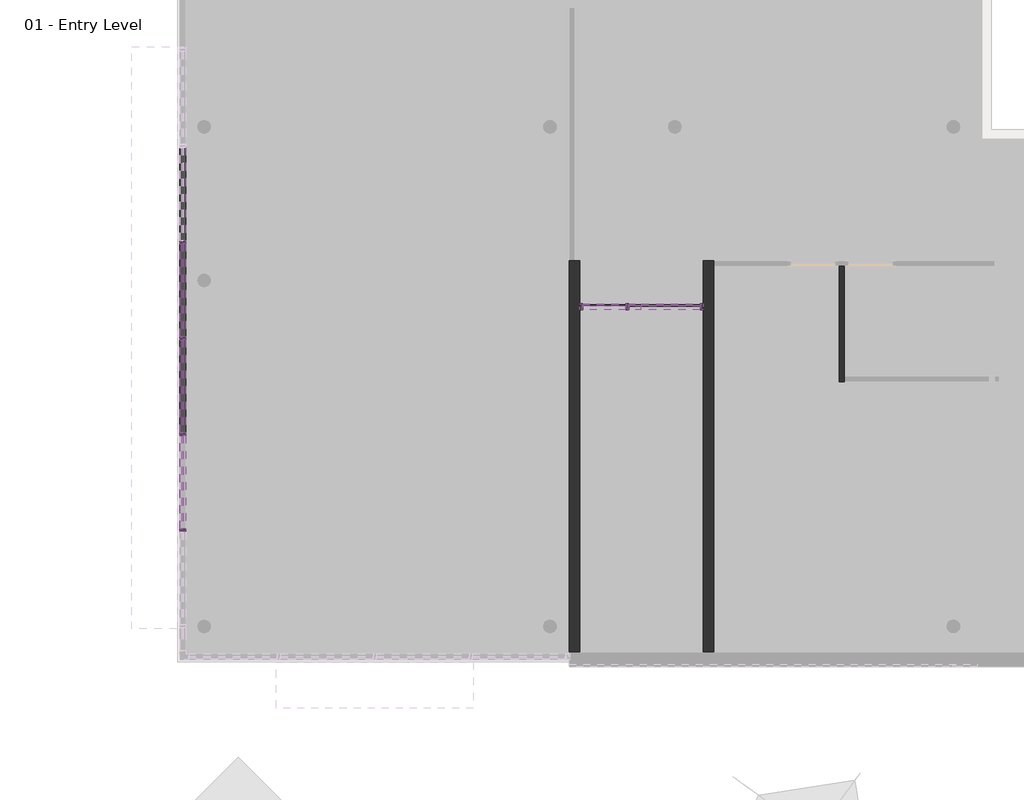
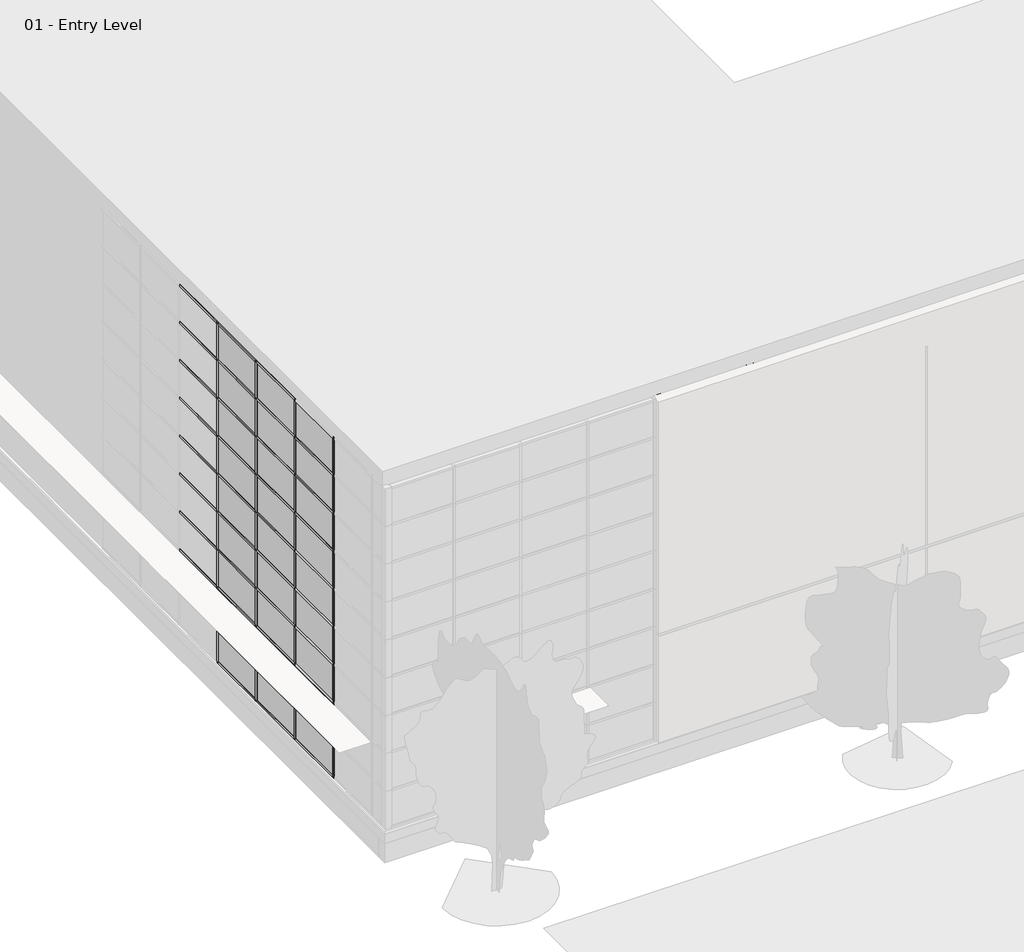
# One storey, part 7 of 35: 87 members, 31 plates, 3 walls, 1 door.
"""IFC4 building model written with IfcOpenShell, lengths in millimetres."""

from ifc_helpers import new_model, si_unit, origin, place, context, project, spatial, faceted_brep, transform, mapped, element, save
from components import curtain_wall_sgl_glass_curtain_wall_sgl_glass_c2d4b377, member_2b49869a, member_18e22e2d, member_9193c932, member_391b434c, member_9e90ae50, member_6186cc23, member_5d67b9fc, member_c327c56d, member_a50b3cda, member_410c6227, member_73c23c35, member_59c53a79, member_c46932f7, member_40e8ea34, member_f5b3432e, system_panel_glazed_1b9d6098, system_panel_glazed_70da479d, system_panel_glazed_652e8fc4, system_panel_glazed_8dc8626f, system_panel_glazed_8d3e4aee, system_panel_glazed_f4fcbcda, system_panel_solid_b376696c, system_panel_solid_77e8b053

model = new_model("IFC4")

# Units and contexts
model_context = context("Model", 3, world=origin())
ifc_project = project(units=[si_unit("LENGTHUNIT", "METRE", prefix="MILLI")], contexts=[model_context])

# Site, building, storey
site = spatial("IfcSite", under=ifc_project)
building = spatial("IfcBuilding", under=site)
storey = spatial("IfcBuildingStorey", under=building, Name="01 - Entry Level", Elevation=0.0)

# Door
placement = place(None, origin())
curtain_wall_sgl_glass_curtain_wall_sgl_glass_shape = curtain_wall_sgl_glass_curtain_wall_sgl_glass_c2d4b377(model_context)
element("IfcDoor", 1, ObjectType="Curtain Wall Sgl Glass : Curtain Wall Sgl Glass", at=placement, inside=storey, context=model_context, shape_type="MappedRepresentation", body=[
    mapped(curtain_wall_sgl_glass_curtain_wall_sgl_glass_shape, transform((9097.2957476, 7356.4, 0.0), x_axis=(-1.0, 0.0, 0.0), y_axis=(0.0, -1.0, 0.0), z_axis=(0.0, 0.0, 1.0))),
])

# Members
member_shape = member_2b49869a(model_context)
element("IfcMember", 2, ObjectType="Rectangular Mullion : 2.5\" x 5\" rectangular", at=placement, inside=storey, context=model_context, shape_type="MappedRepresentation", body=[
    mapped(member_shape, transform((178.7207476, 8728.0, 9753.6), x_axis=(0.0, -1.0, 0.0), y_axis=(-1.0, 0.0, 0.0), z_axis=(0.0, 0.0, -1.0))),
])
element("IfcMember", 3, ObjectType="Rectangular Mullion : 2.5\" x 5\" rectangular", at=placement, inside=storey, context=model_context, shape_type="MappedRepresentation", body=[
    mapped(member_shape, transform((178.7207476, 6696.0, 9753.6), x_axis=(0.0, -1.0, 0.0), y_axis=(-1.0, 0.0, 0.0), z_axis=(0.0, 0.0, -1.0))),
])
element("IfcMember", 4, ObjectType="Rectangular Mullion : 2.5\" x 5\" rectangular", at=placement, inside=storey, context=model_context, shape_type="MappedRepresentation", body=[
    mapped(member_shape, transform((178.7207476, 4664.0, 9753.6), x_axis=(0.0, -1.0, 0.0), y_axis=(-1.0, 0.0, 0.0), z_axis=(0.0, 0.0, -1.0))),
])
element("IfcMember", 5, ObjectType="Rectangular Mullion : 2.5\" x 5\" rectangular", at=placement, inside=storey, context=model_context, shape_type="MappedRepresentation", body=[
    mapped(member_shape, transform((178.7207476, 2632.0, 9753.6), x_axis=(0.0, -1.0, 0.0), y_axis=(-1.0, 0.0, 0.0), z_axis=(0.0, 0.0, -1.0))),
])
member_2_shape = member_18e22e2d(model_context)
element("IfcMember", 6, ObjectType="Rectangular Mullion : 2.5\" x 5\" rectangular", at=placement, inside=storey, context=model_context, shape_type="MappedRepresentation", body=[
    mapped(member_2_shape, transform((9586.2457476, 7356.4, 2438.4), x_axis=(-1.0, 0.0, 0.0), y_axis=(0.0, 1.0, 0.0), z_axis=(0.0, 0.0, -1.0))),
])
member_3_shape = member_9193c932(model_context)
element("IfcMember", 7, ObjectType="Rectangular Mullion : 2.5\" x 5\" rectangular", at=placement, inside=storey, context=model_context, shape_type="MappedRepresentation", body=[
    mapped(member_3_shape, transform((11194.3832476, 7356.4, 3403.6), x_axis=(1.0, 0.0, 0.0), y_axis=(0.0, 1.0, 0.0), z_axis=(0.0, 0.0, 1.0))),
])
element("IfcMember", 8, ObjectType="Rectangular Mullion : 2.5\" x 5\" rectangular", at=placement, inside=storey, context=model_context, shape_type="MappedRepresentation", body=[
    mapped(member_3_shape, transform((8576.5957476, 7356.4, 2438.4), x_axis=(-1.0, 0.0, 0.0), y_axis=(0.0, 1.0, 0.0), z_axis=(0.0, 0.0, -1.0))),
])
member_4_shape = member_391b434c(model_context)
element("IfcMember", 9, ObjectType="Rectangular Mullion : 2.5\" x 5\" rectangular", at=placement, inside=storey, context=model_context, shape_type="MappedRepresentation", body=[
    mapped(member_4_shape, transform((178.7207476, 8759.75, 10972.8), x_axis=(0.0, 0.0, 1.0), y_axis=(-1.0, 0.0, 0.0), z_axis=(0.0, -1.0, 0.0))),
])
element("IfcMember", 10, ObjectType="Rectangular Mullion : 2.5\" x 5\" rectangular", at=placement, inside=storey, context=model_context, shape_type="MappedRepresentation", body=[
    mapped(member_4_shape, transform((178.7207476, 6727.75, 10972.8), x_axis=(0.0, 0.0, 1.0), y_axis=(-1.0, 0.0, 0.0), z_axis=(0.0, -1.0, 0.0))),
])
element("IfcMember", 11, ObjectType="Rectangular Mullion : 2.5\" x 5\" rectangular", at=placement, inside=storey, context=model_context, shape_type="MappedRepresentation", body=[
    mapped(member_4_shape, transform((178.7207476, 4695.75, 10972.8), x_axis=(0.0, 0.0, 1.0), y_axis=(-1.0, 0.0, 0.0), z_axis=(0.0, -1.0, 0.0))),
])
element("IfcMember", 12, ObjectType="Rectangular Mullion : 2.5\" x 5\" rectangular", at=placement, inside=storey, context=model_context, shape_type="MappedRepresentation", body=[
    mapped(member_4_shape, transform((178.7207476, 8696.25, 0.0), x_axis=(0.0, 0.0, -1.0), y_axis=(-1.0, 0.0, 0.0), z_axis=(0.0, 1.0, 0.0))),
])
element("IfcMember", 13, ObjectType="Rectangular Mullion : 2.5\" x 5\" rectangular", at=placement, inside=storey, context=model_context, shape_type="MappedRepresentation", body=[
    mapped(member_4_shape, transform((178.7207476, 6664.25, 0.0), x_axis=(0.0, 0.0, -1.0), y_axis=(-1.0, 0.0, 0.0), z_axis=(0.0, 1.0, 0.0))),
])
element("IfcMember", 14, ObjectType="Rectangular Mullion : 2.5\" x 5\" rectangular", at=placement, inside=storey, context=model_context, shape_type="MappedRepresentation", body=[
    mapped(member_4_shape, transform((178.7207476, 4632.25, 0.0), x_axis=(0.0, 0.0, -1.0), y_axis=(-1.0, 0.0, 0.0), z_axis=(0.0, 1.0, 0.0))),
])
member_5_shape = member_9e90ae50(model_context)
element("IfcMember", 15, ObjectType="Rectangular Mullion : 2.5\" x 5\" rectangular", at=placement, inside=storey, context=model_context, shape_type="MappedRepresentation", body=[
    mapped(member_5_shape, transform((178.7207476, 8759.75, 1219.2), x_axis=(0.0, 0.0, 1.0), y_axis=(-1.0, 0.0, 0.0), z_axis=(0.0, -1.0, 0.0))),
])
element("IfcMember", 16, ObjectType="Rectangular Mullion : 2.5\" x 5\" rectangular", at=placement, inside=storey, context=model_context, shape_type="MappedRepresentation", body=[
    mapped(member_5_shape, transform((178.7207476, 6727.75, 1219.2), x_axis=(0.0, 0.0, 1.0), y_axis=(-1.0, 0.0, 0.0), z_axis=(0.0, -1.0, 0.0))),
])
element("IfcMember", 17, ObjectType="Rectangular Mullion : 2.5\" x 5\" rectangular", at=placement, inside=storey, context=model_context, shape_type="MappedRepresentation", body=[
    mapped(member_5_shape, transform((178.7207476, 4695.75, 1219.2), x_axis=(0.0, 0.0, 1.0), y_axis=(-1.0, 0.0, 0.0), z_axis=(0.0, -1.0, 0.0))),
])
element("IfcMember", 18, ObjectType="Rectangular Mullion : 2.5\" x 5\" rectangular", at=placement, inside=storey, context=model_context, shape_type="MappedRepresentation", body=[
    mapped(member_5_shape, transform((178.7207476, 8759.75, 2438.4), x_axis=(0.0, 0.0, 1.0), y_axis=(-1.0, 0.0, 0.0), z_axis=(0.0, -1.0, 0.0))),
])
element("IfcMember", 19, ObjectType="Rectangular Mullion : 2.5\" x 5\" rectangular", at=placement, inside=storey, context=model_context, shape_type="MappedRepresentation", body=[
    mapped(member_5_shape, transform((178.7207476, 6727.75, 2438.4), x_axis=(0.0, 0.0, 1.0), y_axis=(-1.0, 0.0, 0.0), z_axis=(0.0, -1.0, 0.0))),
])
element("IfcMember", 20, ObjectType="Rectangular Mullion : 2.5\" x 5\" rectangular", at=placement, inside=storey, context=model_context, shape_type="MappedRepresentation", body=[
    mapped(member_5_shape, transform((178.7207476, 4695.75, 2438.4), x_axis=(0.0, 0.0, 1.0), y_axis=(-1.0, 0.0, 0.0), z_axis=(0.0, -1.0, 0.0))),
])
element("IfcMember", 21, ObjectType="Rectangular Mullion : 2.5\" x 5\" rectangular", at=placement, inside=storey, context=model_context, shape_type="MappedRepresentation", body=[
    mapped(member_5_shape, transform((178.7207476, 8759.75, 3657.6), x_axis=(0.0, 0.0, 1.0), y_axis=(-1.0, 0.0, 0.0), z_axis=(0.0, -1.0, 0.0))),
])
element("IfcMember", 22, ObjectType="Rectangular Mullion : 2.5\" x 5\" rectangular", at=placement, inside=storey, context=model_context, shape_type="MappedRepresentation", body=[
    mapped(member_5_shape, transform((178.7207476, 6727.75, 3657.6), x_axis=(0.0, 0.0, 1.0), y_axis=(-1.0, 0.0, 0.0), z_axis=(0.0, -1.0, 0.0))),
])
element("IfcMember", 23, ObjectType="Rectangular Mullion : 2.5\" x 5\" rectangular", at=placement, inside=storey, context=model_context, shape_type="MappedRepresentation", body=[
    mapped(member_5_shape, transform((178.7207476, 4695.75, 3657.6), x_axis=(0.0, 0.0, 1.0), y_axis=(-1.0, 0.0, 0.0), z_axis=(0.0, -1.0, 0.0))),
])
element("IfcMember", 24, ObjectType="Rectangular Mullion : 2.5\" x 5\" rectangular", at=placement, inside=storey, context=model_context, shape_type="MappedRepresentation", body=[
    mapped(member_5_shape, transform((178.7207476, 8759.75, 4876.8), x_axis=(0.0, 0.0, 1.0), y_axis=(-1.0, 0.0, 0.0), z_axis=(0.0, -1.0, 0.0))),
])
element("IfcMember", 25, ObjectType="Rectangular Mullion : 2.5\" x 5\" rectangular", at=placement, inside=storey, context=model_context, shape_type="MappedRepresentation", body=[
    mapped(member_5_shape, transform((178.7207476, 6727.75, 4876.8), x_axis=(0.0, 0.0, 1.0), y_axis=(-1.0, 0.0, 0.0), z_axis=(0.0, -1.0, 0.0))),
])
element("IfcMember", 26, ObjectType="Rectangular Mullion : 2.5\" x 5\" rectangular", at=placement, inside=storey, context=model_context, shape_type="MappedRepresentation", body=[
    mapped(member_5_shape, transform((178.7207476, 4695.75, 4876.8), x_axis=(0.0, 0.0, 1.0), y_axis=(-1.0, 0.0, 0.0), z_axis=(0.0, -1.0, 0.0))),
])
element("IfcMember", 27, ObjectType="Rectangular Mullion : 2.5\" x 5\" rectangular", at=placement, inside=storey, context=model_context, shape_type="MappedRepresentation", body=[
    mapped(member_5_shape, transform((178.7207476, 8759.75, 6096.0), x_axis=(0.0, 0.0, 1.0), y_axis=(-1.0, 0.0, 0.0), z_axis=(0.0, -1.0, 0.0))),
])
element("IfcMember", 28, ObjectType="Rectangular Mullion : 2.5\" x 5\" rectangular", at=placement, inside=storey, context=model_context, shape_type="MappedRepresentation", body=[
    mapped(member_5_shape, transform((178.7207476, 6727.75, 6096.0), x_axis=(0.0, 0.0, 1.0), y_axis=(-1.0, 0.0, 0.0), z_axis=(0.0, -1.0, 0.0))),
])
element("IfcMember", 29, ObjectType="Rectangular Mullion : 2.5\" x 5\" rectangular", at=placement, inside=storey, context=model_context, shape_type="MappedRepresentation", body=[
    mapped(member_5_shape, transform((178.7207476, 4695.75, 6096.0), x_axis=(0.0, 0.0, 1.0), y_axis=(-1.0, 0.0, 0.0), z_axis=(0.0, -1.0, 0.0))),
])
element("IfcMember", 30, ObjectType="Rectangular Mullion : 2.5\" x 5\" rectangular", at=placement, inside=storey, context=model_context, shape_type="MappedRepresentation", body=[
    mapped(member_5_shape, transform((178.7207476, 8759.75, 7315.2), x_axis=(0.0, 0.0, 1.0), y_axis=(-1.0, 0.0, 0.0), z_axis=(0.0, -1.0, 0.0))),
])
element("IfcMember", 31, ObjectType="Rectangular Mullion : 2.5\" x 5\" rectangular", at=placement, inside=storey, context=model_context, shape_type="MappedRepresentation", body=[
    mapped(member_5_shape, transform((178.7207476, 6727.75, 7315.2), x_axis=(0.0, 0.0, 1.0), y_axis=(-1.0, 0.0, 0.0), z_axis=(0.0, -1.0, 0.0))),
])
element("IfcMember", 32, ObjectType="Rectangular Mullion : 2.5\" x 5\" rectangular", at=placement, inside=storey, context=model_context, shape_type="MappedRepresentation", body=[
    mapped(member_5_shape, transform((178.7207476, 4695.75, 7315.2), x_axis=(0.0, 0.0, 1.0), y_axis=(-1.0, 0.0, 0.0), z_axis=(0.0, -1.0, 0.0))),
])
element("IfcMember", 33, ObjectType="Rectangular Mullion : 2.5\" x 5\" rectangular", at=placement, inside=storey, context=model_context, shape_type="MappedRepresentation", body=[
    mapped(member_5_shape, transform((178.7207476, 2663.75, 7315.2), x_axis=(0.0, 0.0, 1.0), y_axis=(-1.0, 0.0, 0.0), z_axis=(0.0, -1.0, 0.0))),
])
element("IfcMember", 34, ObjectType="Rectangular Mullion : 2.5\" x 5\" rectangular", at=placement, inside=storey, context=model_context, shape_type="MappedRepresentation", body=[
    mapped(member_5_shape, transform((178.7207476, 8759.75, 8534.4), x_axis=(0.0, 0.0, 1.0), y_axis=(-1.0, 0.0, 0.0), z_axis=(0.0, -1.0, 0.0))),
])
element("IfcMember", 35, ObjectType="Rectangular Mullion : 2.5\" x 5\" rectangular", at=placement, inside=storey, context=model_context, shape_type="MappedRepresentation", body=[
    mapped(member_5_shape, transform((178.7207476, 6727.75, 8534.4), x_axis=(0.0, 0.0, 1.0), y_axis=(-1.0, 0.0, 0.0), z_axis=(0.0, -1.0, 0.0))),
])
element("IfcMember", 36, ObjectType="Rectangular Mullion : 2.5\" x 5\" rectangular", at=placement, inside=storey, context=model_context, shape_type="MappedRepresentation", body=[
    mapped(member_5_shape, transform((178.7207476, 4695.75, 8534.4), x_axis=(0.0, 0.0, 1.0), y_axis=(-1.0, 0.0, 0.0), z_axis=(0.0, -1.0, 0.0))),
])
element("IfcMember", 37, ObjectType="Rectangular Mullion : 2.5\" x 5\" rectangular", at=placement, inside=storey, context=model_context, shape_type="MappedRepresentation", body=[
    mapped(member_5_shape, transform((178.7207476, 2663.75, 8534.4), x_axis=(0.0, 0.0, 1.0), y_axis=(-1.0, 0.0, 0.0), z_axis=(0.0, -1.0, 0.0))),
])
element("IfcMember", 38, ObjectType="Rectangular Mullion : 2.5\" x 5\" rectangular", at=placement, inside=storey, context=model_context, shape_type="MappedRepresentation", body=[
    mapped(member_5_shape, transform((178.7207476, 8759.75, 9753.6), x_axis=(0.0, 0.0, 1.0), y_axis=(-1.0, 0.0, 0.0), z_axis=(0.0, -1.0, 0.0))),
])
element("IfcMember", 39, ObjectType="Rectangular Mullion : 2.5\" x 5\" rectangular", at=placement, inside=storey, context=model_context, shape_type="MappedRepresentation", body=[
    mapped(member_5_shape, transform((178.7207476, 6727.75, 9753.6), x_axis=(0.0, 0.0, 1.0), y_axis=(-1.0, 0.0, 0.0), z_axis=(0.0, -1.0, 0.0))),
])
element("IfcMember", 40, ObjectType="Rectangular Mullion : 2.5\" x 5\" rectangular", at=placement, inside=storey, context=model_context, shape_type="MappedRepresentation", body=[
    mapped(member_5_shape, transform((178.7207476, 4695.75, 9753.6), x_axis=(0.0, 0.0, 1.0), y_axis=(-1.0, 0.0, 0.0), z_axis=(0.0, -1.0, 0.0))),
])
element("IfcMember", 41, ObjectType="Rectangular Mullion : 2.5\" x 5\" rectangular", at=placement, inside=storey, context=model_context, shape_type="MappedRepresentation", body=[
    mapped(member_5_shape, transform((178.7207476, 2663.75, 9753.6), x_axis=(0.0, 0.0, 1.0), y_axis=(-1.0, 0.0, 0.0), z_axis=(0.0, -1.0, 0.0))),
])
element("IfcMember", 42, ObjectType="Rectangular Mullion : 2.5\" x 5\" rectangular", at=placement, inside=storey, context=model_context, shape_type="MappedRepresentation", body=[
    mapped(member_shape, transform((178.7207476, 8728.0, 0.0), x_axis=(0.0, -1.0, 0.0), y_axis=(-1.0, 0.0, 0.0), z_axis=(0.0, 0.0, -1.0))),
])
element("IfcMember", 43, ObjectType="Rectangular Mullion : 2.5\" x 5\" rectangular", at=placement, inside=storey, context=model_context, shape_type="MappedRepresentation", body=[
    mapped(member_shape, transform((178.7207476, 6696.0, 0.0), x_axis=(0.0, -1.0, 0.0), y_axis=(-1.0, 0.0, 0.0), z_axis=(0.0, 0.0, -1.0))),
])
element("IfcMember", 44, ObjectType="Rectangular Mullion : 2.5\" x 5\" rectangular", at=placement, inside=storey, context=model_context, shape_type="MappedRepresentation", body=[
    mapped(member_shape, transform((178.7207476, 4664.0, 0.0), x_axis=(0.0, -1.0, 0.0), y_axis=(-1.0, 0.0, 0.0), z_axis=(0.0, 0.0, -1.0))),
])
element("IfcMember", 45, ObjectType="Rectangular Mullion : 2.5\" x 5\" rectangular", at=placement, inside=storey, context=model_context, shape_type="MappedRepresentation", body=[
    mapped(member_shape, transform((178.7207476, 2632.0, 0.0), x_axis=(0.0, -1.0, 0.0), y_axis=(-1.0, 0.0, 0.0), z_axis=(0.0, 0.0, -1.0))),
])
element("IfcMember", 46, ObjectType="Rectangular Mullion : 2.5\" x 5\" rectangular", at=placement, inside=storey, context=model_context, shape_type="MappedRepresentation", body=[
    mapped(member_shape, transform((178.7207476, 8728.0, 1219.2), x_axis=(0.0, -1.0, 0.0), y_axis=(-1.0, 0.0, 0.0), z_axis=(0.0, 0.0, -1.0))),
])
element("IfcMember", 47, ObjectType="Rectangular Mullion : 2.5\" x 5\" rectangular", at=placement, inside=storey, context=model_context, shape_type="MappedRepresentation", body=[
    mapped(member_shape, transform((178.7207476, 6696.0, 1219.2), x_axis=(0.0, -1.0, 0.0), y_axis=(-1.0, 0.0, 0.0), z_axis=(0.0, 0.0, -1.0))),
])
element("IfcMember", 48, ObjectType="Rectangular Mullion : 2.5\" x 5\" rectangular", at=placement, inside=storey, context=model_context, shape_type="MappedRepresentation", body=[
    mapped(member_shape, transform((178.7207476, 4664.0, 1219.2), x_axis=(0.0, -1.0, 0.0), y_axis=(-1.0, 0.0, 0.0), z_axis=(0.0, 0.0, -1.0))),
])
element("IfcMember", 49, ObjectType="Rectangular Mullion : 2.5\" x 5\" rectangular", at=placement, inside=storey, context=model_context, shape_type="MappedRepresentation", body=[
    mapped(member_shape, transform((178.7207476, 2632.0, 1219.2), x_axis=(0.0, -1.0, 0.0), y_axis=(-1.0, 0.0, 0.0), z_axis=(0.0, 0.0, -1.0))),
])
element("IfcMember", 50, ObjectType="Rectangular Mullion : 2.5\" x 5\" rectangular", at=placement, inside=storey, context=model_context, shape_type="MappedRepresentation", body=[
    mapped(member_shape, transform((178.7207476, 8728.0, 2438.4), x_axis=(0.0, -1.0, 0.0), y_axis=(-1.0, 0.0, 0.0), z_axis=(0.0, 0.0, -1.0))),
])
element("IfcMember", 51, ObjectType="Rectangular Mullion : 2.5\" x 5\" rectangular", at=placement, inside=storey, context=model_context, shape_type="MappedRepresentation", body=[
    mapped(member_shape, transform((178.7207476, 6696.0, 2438.4), x_axis=(0.0, -1.0, 0.0), y_axis=(-1.0, 0.0, 0.0), z_axis=(0.0, 0.0, -1.0))),
])
element("IfcMember", 52, ObjectType="Rectangular Mullion : 2.5\" x 5\" rectangular", at=placement, inside=storey, context=model_context, shape_type="MappedRepresentation", body=[
    mapped(member_shape, transform((178.7207476, 4664.0, 2438.4), x_axis=(0.0, -1.0, 0.0), y_axis=(-1.0, 0.0, 0.0), z_axis=(0.0, 0.0, -1.0))),
])
element("IfcMember", 53, ObjectType="Rectangular Mullion : 2.5\" x 5\" rectangular", at=placement, inside=storey, context=model_context, shape_type="MappedRepresentation", body=[
    mapped(member_shape, transform((178.7207476, 2632.0, 2438.4), x_axis=(0.0, -1.0, 0.0), y_axis=(-1.0, 0.0, 0.0), z_axis=(0.0, 0.0, -1.0))),
])
element("IfcMember", 54, ObjectType="Rectangular Mullion : 2.5\" x 5\" rectangular", at=placement, inside=storey, context=model_context, shape_type="MappedRepresentation", body=[
    mapped(member_shape, transform((178.7207476, 8728.0, 3657.6), x_axis=(0.0, -1.0, 0.0), y_axis=(-1.0, 0.0, 0.0), z_axis=(0.0, 0.0, -1.0))),
])
element("IfcMember", 55, ObjectType="Rectangular Mullion : 2.5\" x 5\" rectangular", at=placement, inside=storey, context=model_context, shape_type="MappedRepresentation", body=[
    mapped(member_shape, transform((178.7207476, 6696.0, 3657.6), x_axis=(0.0, -1.0, 0.0), y_axis=(-1.0, 0.0, 0.0), z_axis=(0.0, 0.0, -1.0))),
])
element("IfcMember", 56, ObjectType="Rectangular Mullion : 2.5\" x 5\" rectangular", at=placement, inside=storey, context=model_context, shape_type="MappedRepresentation", body=[
    mapped(member_shape, transform((178.7207476, 4664.0, 3657.6), x_axis=(0.0, -1.0, 0.0), y_axis=(-1.0, 0.0, 0.0), z_axis=(0.0, 0.0, -1.0))),
])
element("IfcMember", 57, ObjectType="Rectangular Mullion : 2.5\" x 5\" rectangular", at=placement, inside=storey, context=model_context, shape_type="MappedRepresentation", body=[
    mapped(member_shape, transform((178.7207476, 2632.0, 3657.6), x_axis=(0.0, -1.0, 0.0), y_axis=(-1.0, 0.0, 0.0), z_axis=(0.0, 0.0, -1.0))),
])
element("IfcMember", 58, ObjectType="Rectangular Mullion : 2.5\" x 5\" rectangular", at=placement, inside=storey, context=model_context, shape_type="MappedRepresentation", body=[
    mapped(member_shape, transform((178.7207476, 8728.0, 4876.8), x_axis=(0.0, -1.0, 0.0), y_axis=(-1.0, 0.0, 0.0), z_axis=(0.0, 0.0, -1.0))),
])
element("IfcMember", 59, ObjectType="Rectangular Mullion : 2.5\" x 5\" rectangular", at=placement, inside=storey, context=model_context, shape_type="MappedRepresentation", body=[
    mapped(member_shape, transform((178.7207476, 6696.0, 4876.8), x_axis=(0.0, -1.0, 0.0), y_axis=(-1.0, 0.0, 0.0), z_axis=(0.0, 0.0, -1.0))),
])
element("IfcMember", 60, ObjectType="Rectangular Mullion : 2.5\" x 5\" rectangular", at=placement, inside=storey, context=model_context, shape_type="MappedRepresentation", body=[
    mapped(member_shape, transform((178.7207476, 4664.0, 4876.8), x_axis=(0.0, -1.0, 0.0), y_axis=(-1.0, 0.0, 0.0), z_axis=(0.0, 0.0, -1.0))),
])
element("IfcMember", 61, ObjectType="Rectangular Mullion : 2.5\" x 5\" rectangular", at=placement, inside=storey, context=model_context, shape_type="MappedRepresentation", body=[
    mapped(member_shape, transform((178.7207476, 2632.0, 4876.8), x_axis=(0.0, -1.0, 0.0), y_axis=(-1.0, 0.0, 0.0), z_axis=(0.0, 0.0, -1.0))),
])
element("IfcMember", 62, ObjectType="Rectangular Mullion : 2.5\" x 5\" rectangular", at=placement, inside=storey, context=model_context, shape_type="MappedRepresentation", body=[
    mapped(member_shape, transform((178.7207476, 8728.0, 6096.0), x_axis=(0.0, -1.0, 0.0), y_axis=(-1.0, 0.0, 0.0), z_axis=(0.0, 0.0, -1.0))),
])
element("IfcMember", 63, ObjectType="Rectangular Mullion : 2.5\" x 5\" rectangular", at=placement, inside=storey, context=model_context, shape_type="MappedRepresentation", body=[
    mapped(member_shape, transform((178.7207476, 6696.0, 6096.0), x_axis=(0.0, -1.0, 0.0), y_axis=(-1.0, 0.0, 0.0), z_axis=(0.0, 0.0, -1.0))),
])
element("IfcMember", 64, ObjectType="Rectangular Mullion : 2.5\" x 5\" rectangular", at=placement, inside=storey, context=model_context, shape_type="MappedRepresentation", body=[
    mapped(member_shape, transform((178.7207476, 4664.0, 6096.0), x_axis=(0.0, -1.0, 0.0), y_axis=(-1.0, 0.0, 0.0), z_axis=(0.0, 0.0, -1.0))),
])
element("IfcMember", 65, ObjectType="Rectangular Mullion : 2.5\" x 5\" rectangular", at=placement, inside=storey, context=model_context, shape_type="MappedRepresentation", body=[
    mapped(member_shape, transform((178.7207476, 2632.0, 6096.0), x_axis=(0.0, -1.0, 0.0), y_axis=(-1.0, 0.0, 0.0), z_axis=(0.0, 0.0, -1.0))),
])
element("IfcMember", 66, ObjectType="Rectangular Mullion : 2.5\" x 5\" rectangular", at=placement, inside=storey, context=model_context, shape_type="MappedRepresentation", body=[
    mapped(member_shape, transform((178.7207476, 8728.0, 7315.2), x_axis=(0.0, -1.0, 0.0), y_axis=(-1.0, 0.0, 0.0), z_axis=(0.0, 0.0, -1.0))),
])
element("IfcMember", 67, ObjectType="Rectangular Mullion : 2.5\" x 5\" rectangular", at=placement, inside=storey, context=model_context, shape_type="MappedRepresentation", body=[
    mapped(member_shape, transform((178.7207476, 6696.0, 7315.2), x_axis=(0.0, -1.0, 0.0), y_axis=(-1.0, 0.0, 0.0), z_axis=(0.0, 0.0, -1.0))),
])
element("IfcMember", 68, ObjectType="Rectangular Mullion : 2.5\" x 5\" rectangular", at=placement, inside=storey, context=model_context, shape_type="MappedRepresentation", body=[
    mapped(member_shape, transform((178.7207476, 4664.0, 7315.2), x_axis=(0.0, -1.0, 0.0), y_axis=(-1.0, 0.0, 0.0), z_axis=(0.0, 0.0, -1.0))),
])
element("IfcMember", 69, ObjectType="Rectangular Mullion : 2.5\" x 5\" rectangular", at=placement, inside=storey, context=model_context, shape_type="MappedRepresentation", body=[
    mapped(member_shape, transform((178.7207476, 2632.0, 7315.2), x_axis=(0.0, -1.0, 0.0), y_axis=(-1.0, 0.0, 0.0), z_axis=(0.0, 0.0, -1.0))),
])
element("IfcMember", 70, ObjectType="Rectangular Mullion : 2.5\" x 5\" rectangular", at=placement, inside=storey, context=model_context, shape_type="MappedRepresentation", body=[
    mapped(member_shape, transform((178.7207476, 8728.0, 8534.4), x_axis=(0.0, -1.0, 0.0), y_axis=(-1.0, 0.0, 0.0), z_axis=(0.0, 0.0, -1.0))),
])
element("IfcMember", 71, ObjectType="Rectangular Mullion : 2.5\" x 5\" rectangular", at=placement, inside=storey, context=model_context, shape_type="MappedRepresentation", body=[
    mapped(member_shape, transform((178.7207476, 6696.0, 8534.4), x_axis=(0.0, -1.0, 0.0), y_axis=(-1.0, 0.0, 0.0), z_axis=(0.0, 0.0, -1.0))),
])
element("IfcMember", 72, ObjectType="Rectangular Mullion : 2.5\" x 5\" rectangular", at=placement, inside=storey, context=model_context, shape_type="MappedRepresentation", body=[
    mapped(member_shape, transform((178.7207476, 4664.0, 8534.4), x_axis=(0.0, -1.0, 0.0), y_axis=(-1.0, 0.0, 0.0), z_axis=(0.0, 0.0, -1.0))),
])
element("IfcMember", 73, ObjectType="Rectangular Mullion : 2.5\" x 5\" rectangular", at=placement, inside=storey, context=model_context, shape_type="MappedRepresentation", body=[
    mapped(member_shape, transform((178.7207476, 2632.0, 8534.4), x_axis=(0.0, -1.0, 0.0), y_axis=(-1.0, 0.0, 0.0), z_axis=(0.0, 0.0, -1.0))),
])
member_6_shape = member_6186cc23(model_context)
element("IfcMember", 74, ObjectType="Rectangular Mullion : 2.5\" x 5\" rectangular", at=placement, inside=storey, context=model_context, shape_type="MappedRepresentation", body=[
    mapped(member_6_shape, transform((9586.2457476, 7356.4, 0.0), x_axis=(-1.0, 0.0, 0.0), y_axis=(0.0, 1.0, 0.0), z_axis=(0.0, 0.0, -1.0))),
])
member_7_shape = member_5d67b9fc(model_context)
element("IfcMember", 75, ObjectType="Rectangular Mullion : 2.5\" x 5\" rectangular", at=placement, inside=storey, context=model_context, shape_type="MappedRepresentation", body=[
    mapped(member_7_shape, transform((9586.2457476, 7356.4, 2165.35), x_axis=(-1.0, 0.0, 0.0), y_axis=(0.0, 1.0, 0.0), z_axis=(0.0, 0.0, -1.0))),
])
member_8_shape = member_c327c56d(model_context)
element("IfcMember", 76, ObjectType="Rectangular Mullion : 2.5\" x 5\" rectangular", at=placement, inside=storey, context=model_context, shape_type="MappedRepresentation", body=[
    mapped(member_8_shape, transform((11194.3832476, 7356.4, 2438.4), x_axis=(1.0, 0.0, 0.0), y_axis=(0.0, 1.0, 0.0), z_axis=(0.0, 0.0, 1.0))),
])
member_9_shape = member_a50b3cda(model_context)
element("IfcMember", 77, ObjectType="Rectangular Mullion : 2.5\" x 5\" rectangular", at=placement, inside=storey, context=model_context, shape_type="MappedRepresentation", body=[
    mapped(member_9_shape, transform((11194.3832476, 7356.4, 2165.35), x_axis=(1.0, 0.0, 0.0), y_axis=(0.0, 1.0, 0.0), z_axis=(0.0, 0.0, 1.0))),
])
member_10_shape = member_410c6227(model_context)
element("IfcMember", 78, ObjectType="Rectangular Mullion : 2.5\" x 5\" rectangular", at=placement, inside=storey, context=model_context, shape_type="MappedRepresentation", body=[
    mapped(member_10_shape, transform((8640.0957476, 7356.4, 2438.4), x_axis=(0.0, 0.0, 1.0), y_axis=(0.0, 1.0, 0.0), z_axis=(-1.0, 0.0, 0.0))),
])
element("IfcMember", 79, ObjectType="Rectangular Mullion : 2.5\" x 5\" rectangular", at=placement, inside=storey, context=model_context, shape_type="MappedRepresentation", body=[
    mapped(member_10_shape, transform((8640.0957476, 7356.4, 2165.35), x_axis=(0.0, 0.0, 1.0), y_axis=(0.0, 1.0, 0.0), z_axis=(-1.0, 0.0, 0.0))),
])
member_11_shape = member_73c23c35(model_context)
element("IfcMember", 80, ObjectType="Rectangular Mullion : 2.5\" x 5\" rectangular", at=placement, inside=storey, context=model_context, shape_type="MappedRepresentation", body=[
    mapped(member_11_shape, transform((8640.0957476, 7356.4, 3403.6), x_axis=(0.0, 0.0, 1.0), y_axis=(0.0, 1.0, 0.0), z_axis=(-1.0, 0.0, 0.0))),
])
element("IfcMember", 81, ObjectType="Rectangular Mullion : 2.5\" x 5\" rectangular", at=placement, inside=storey, context=model_context, shape_type="MappedRepresentation", body=[
    mapped(member_9_shape, transform((8576.5957476, 7356.4, 0.0), x_axis=(-1.0, 0.0, 0.0), y_axis=(0.0, 1.0, 0.0), z_axis=(0.0, 0.0, -1.0))),
])
element("IfcMember", 82, ObjectType="Rectangular Mullion : 2.5\" x 5\" rectangular", at=placement, inside=storey, context=model_context, shape_type="MappedRepresentation", body=[
    mapped(member_8_shape, transform((8576.5957476, 7356.4, 2165.35), x_axis=(-1.0, 0.0, 0.0), y_axis=(0.0, 1.0, 0.0), z_axis=(0.0, 0.0, -1.0))),
])
member_12_shape = member_59c53a79(model_context)
element("IfcMember", 83, ObjectType="Rectangular Mullion : 2.5\" x 5\" rectangular", at=placement, inside=storey, context=model_context, shape_type="MappedRepresentation", body=[
    mapped(member_12_shape, transform((11130.8832476, 7356.4, 0.0), x_axis=(0.0, 0.0, -1.0), y_axis=(0.0, 1.0, 0.0), z_axis=(1.0, 0.0, 0.0))),
])
member_13_shape = member_c46932f7(model_context)
element("IfcMember", 84, ObjectType="Rectangular Mullion : 2.5\" x 5\" rectangular", at=placement, inside=storey, context=model_context, shape_type="MappedRepresentation", body=[
    mapped(member_13_shape, transform((9885.4894976, 7356.4, 2438.4), x_axis=(0.0, 0.0, 1.0), y_axis=(0.0, 1.0, 0.0), z_axis=(-1.0, 0.0, 0.0))),
])
element("IfcMember", 85, ObjectType="Rectangular Mullion : 2.5\" x 5\" rectangular", at=placement, inside=storey, context=model_context, shape_type="MappedRepresentation", body=[
    mapped(member_12_shape, transform((9885.4894976, 7356.4, 3403.6), x_axis=(0.0, 0.0, 1.0), y_axis=(0.0, 1.0, 0.0), z_axis=(-1.0, 0.0, 0.0))),
])
member_14_shape = member_40e8ea34(model_context)
element("IfcMember", 86, ObjectType="Rectangular Mullion : 2.5\" x 5\" rectangular", at=placement, inside=storey, context=model_context, shape_type="MappedRepresentation", body=[
    mapped(member_14_shape, transform((9617.9957476, 7356.4, 2438.4), x_axis=(0.0, 0.0, 1.0), y_axis=(0.0, 1.0, 0.0), z_axis=(-1.0, 0.0, 0.0))),
])
member_15_shape = member_f5b3432e(model_context)
element("IfcMember", 87, ObjectType="Rectangular Mullion : 2.5\" x 5\" rectangular", at=placement, inside=storey, context=model_context, shape_type="MappedRepresentation", body=[
    mapped(member_15_shape, transform((9617.9957476, 7356.4, 3403.6), x_axis=(0.0, 0.0, 1.0), y_axis=(0.0, 1.0, 0.0), z_axis=(-1.0, 0.0, 0.0))),
])
element("IfcMember", 88, ObjectType="Rectangular Mullion : 2.5\" x 5\" rectangular", at=placement, inside=storey, context=model_context, shape_type="MappedRepresentation", body=[
    mapped(member_15_shape, transform((9885.4894976, 7356.4, 0.0), x_axis=(0.0, 0.0, -1.0), y_axis=(0.0, 1.0, 0.0), z_axis=(1.0, 0.0, 0.0))),
])

# Plates
system_panel_glazed_shape = system_panel_glazed_1b9d6098(model_context)
element("IfcPlate", 89, ObjectType="System Panel : Glazed", at=placement, inside=storey, context=model_context, shape_type="MappedRepresentation", body=[
    mapped(system_panel_glazed_shape, transform((178.7207476, 7712.0, 63.5), x_axis=(0.0, -1.0, 0.0), y_axis=(1.0, 0.0, 0.0), z_axis=(0.0, 0.0, 1.0))),
])
element("IfcPlate", 90, ObjectType="System Panel : Glazed", at=placement, inside=storey, context=model_context, shape_type="MappedRepresentation", body=[
    mapped(system_panel_glazed_shape, transform((178.7207476, 5680.0, 63.5), x_axis=(0.0, -1.0, 0.0), y_axis=(1.0, 0.0, 0.0), z_axis=(0.0, 0.0, 1.0))),
])
element("IfcPlate", 91, ObjectType="System Panel : Glazed", at=placement, inside=storey, context=model_context, shape_type="MappedRepresentation", body=[
    mapped(system_panel_glazed_shape, transform((178.7207476, 3648.0, 63.5), x_axis=(0.0, -1.0, 0.0), y_axis=(1.0, 0.0, 0.0), z_axis=(0.0, 0.0, 1.0))),
])
system_panel_glazed_2_shape = system_panel_glazed_70da479d(model_context)
element("IfcPlate", 92, ObjectType="System Panel : Glazed", at=placement, inside=storey, context=model_context, shape_type="MappedRepresentation", body=[
    mapped(system_panel_glazed_2_shape, transform((178.7207476, 7712.0, 1250.95), x_axis=(0.0, -1.0, 0.0), y_axis=(1.0, 0.0, 0.0), z_axis=(0.0, 0.0, 1.0))),
])
element("IfcPlate", 93, ObjectType="System Panel : Glazed", at=placement, inside=storey, context=model_context, shape_type="MappedRepresentation", body=[
    mapped(system_panel_glazed_2_shape, transform((178.7207476, 5680.0, 1250.95), x_axis=(0.0, -1.0, 0.0), y_axis=(1.0, 0.0, 0.0), z_axis=(0.0, 0.0, 1.0))),
])
element("IfcPlate", 94, ObjectType="System Panel : Glazed", at=placement, inside=storey, context=model_context, shape_type="MappedRepresentation", body=[
    mapped(system_panel_glazed_2_shape, transform((178.7207476, 3648.0, 1250.95), x_axis=(0.0, -1.0, 0.0), y_axis=(1.0, 0.0, 0.0), z_axis=(0.0, 0.0, 1.0))),
])
element("IfcPlate", 95, ObjectType="System Panel : Glazed", at=placement, inside=storey, context=model_context, shape_type="MappedRepresentation", body=[
    mapped(system_panel_glazed_2_shape, transform((178.7207476, 7712.0, 3689.35), x_axis=(0.0, -1.0, 0.0), y_axis=(1.0, 0.0, 0.0), z_axis=(0.0, 0.0, 1.0))),
])
element("IfcPlate", 96, ObjectType="System Panel : Glazed", at=placement, inside=storey, context=model_context, shape_type="MappedRepresentation", body=[
    mapped(system_panel_glazed_2_shape, transform((178.7207476, 5680.0, 3689.35), x_axis=(0.0, -1.0, 0.0), y_axis=(1.0, 0.0, 0.0), z_axis=(0.0, 0.0, 1.0))),
])
element("IfcPlate", 97, ObjectType="System Panel : Glazed", at=placement, inside=storey, context=model_context, shape_type="MappedRepresentation", body=[
    mapped(system_panel_glazed_2_shape, transform((178.7207476, 3648.0, 3689.35), x_axis=(0.0, -1.0, 0.0), y_axis=(1.0, 0.0, 0.0), z_axis=(0.0, 0.0, 1.0))),
])
element("IfcPlate", 98, ObjectType="System Panel : Glazed", at=placement, inside=storey, context=model_context, shape_type="MappedRepresentation", body=[
    mapped(system_panel_glazed_2_shape, transform((178.7207476, 7712.0, 4908.55), x_axis=(0.0, -1.0, 0.0), y_axis=(1.0, 0.0, 0.0), z_axis=(0.0, 0.0, 1.0))),
])
element("IfcPlate", 99, ObjectType="System Panel : Glazed", at=placement, inside=storey, context=model_context, shape_type="MappedRepresentation", body=[
    mapped(system_panel_glazed_2_shape, transform((178.7207476, 5680.0, 4908.55), x_axis=(0.0, -1.0, 0.0), y_axis=(1.0, 0.0, 0.0), z_axis=(0.0, 0.0, 1.0))),
])
element("IfcPlate", 100, ObjectType="System Panel : Glazed", at=placement, inside=storey, context=model_context, shape_type="MappedRepresentation", body=[
    mapped(system_panel_glazed_2_shape, transform((178.7207476, 3648.0, 4908.55), x_axis=(0.0, -1.0, 0.0), y_axis=(1.0, 0.0, 0.0), z_axis=(0.0, 0.0, 1.0))),
])
element("IfcPlate", 101, ObjectType="System Panel : Glazed", at=placement, inside=storey, context=model_context, shape_type="MappedRepresentation", body=[
    mapped(system_panel_glazed_2_shape, transform((178.7207476, 7712.0, 7346.95), x_axis=(0.0, -1.0, 0.0), y_axis=(1.0, 0.0, 0.0), z_axis=(0.0, 0.0, 1.0))),
])
element("IfcPlate", 102, ObjectType="System Panel : Glazed", at=placement, inside=storey, context=model_context, shape_type="MappedRepresentation", body=[
    mapped(system_panel_glazed_2_shape, transform((178.7207476, 5680.0, 7346.95), x_axis=(0.0, -1.0, 0.0), y_axis=(1.0, 0.0, 0.0), z_axis=(0.0, 0.0, 1.0))),
])
element("IfcPlate", 103, ObjectType="System Panel : Glazed", at=placement, inside=storey, context=model_context, shape_type="MappedRepresentation", body=[
    mapped(system_panel_glazed_2_shape, transform((178.7207476, 3648.0, 7346.95), x_axis=(0.0, -1.0, 0.0), y_axis=(1.0, 0.0, 0.0), z_axis=(0.0, 0.0, 1.0))),
])
element("IfcPlate", 104, ObjectType="System Panel : Glazed", at=placement, inside=storey, context=model_context, shape_type="MappedRepresentation", body=[
    mapped(system_panel_glazed_2_shape, transform((178.7207476, 7712.0, 8566.15), x_axis=(0.0, -1.0, 0.0), y_axis=(1.0, 0.0, 0.0), z_axis=(0.0, 0.0, 1.0))),
])
element("IfcPlate", 105, ObjectType="System Panel : Glazed", at=placement, inside=storey, context=model_context, shape_type="MappedRepresentation", body=[
    mapped(system_panel_glazed_2_shape, transform((178.7207476, 5680.0, 8566.15), x_axis=(0.0, -1.0, 0.0), y_axis=(1.0, 0.0, 0.0), z_axis=(0.0, 0.0, 1.0))),
])
element("IfcPlate", 106, ObjectType="System Panel : Glazed", at=placement, inside=storey, context=model_context, shape_type="MappedRepresentation", body=[
    mapped(system_panel_glazed_2_shape, transform((178.7207476, 3648.0, 8566.15), x_axis=(0.0, -1.0, 0.0), y_axis=(1.0, 0.0, 0.0), z_axis=(0.0, 0.0, 1.0))),
])
system_panel_glazed_3_shape = system_panel_glazed_652e8fc4(model_context)
element("IfcPlate", 107, ObjectType="System Panel : Glazed", at=placement, inside=storey, context=model_context, shape_type="MappedRepresentation", body=[
    mapped(system_panel_glazed_3_shape, transform((9097.2957476, 7356.4, 2470.15), x_axis=(-1.0, 0.0, 0.0), y_axis=(0.0, -1.0, 0.0), z_axis=(0.0, 0.0, 1.0))),
])
system_panel_glazed_4_shape = system_panel_glazed_8dc8626f(model_context)
element("IfcPlate", 108, ObjectType="System Panel : Glazed", at=placement, inside=storey, context=model_context, shape_type="MappedRepresentation", body=[
    mapped(system_panel_glazed_4_shape, transform((9097.2957476, 7356.4, 2197.1), x_axis=(-1.0, 0.0, 0.0), y_axis=(0.0, -1.0, 0.0), z_axis=(0.0, 0.0, 1.0))),
])
system_panel_glazed_5_shape = system_panel_glazed_8d3e4aee(model_context)
element("IfcPlate", 109, ObjectType="System Panel : Glazed", at=placement, inside=storey, context=model_context, shape_type="MappedRepresentation", body=[
    mapped(system_panel_glazed_5_shape, transform((10374.4394976, 7356.4, 63.5), x_axis=(-1.0, 0.0, 0.0), y_axis=(0.0, -1.0, 0.0), z_axis=(0.0, 0.0, 1.0))),
])
system_panel_glazed_6_shape = system_panel_glazed_f4fcbcda(model_context)
element("IfcPlate", 110, ObjectType="System Panel : Glazed", at=placement, inside=storey, context=model_context, shape_type="MappedRepresentation", body=[
    mapped(system_panel_glazed_6_shape, transform((10374.4394976, 7356.4, 2470.15), x_axis=(-1.0, 0.0, 0.0), y_axis=(0.0, -1.0, 0.0), z_axis=(0.0, 0.0, 1.0))),
])
system_panel_solid_shape = system_panel_solid_b376696c(model_context)
element("IfcPlate", 111, ObjectType="System Panel : Solid", at=placement, inside=storey, context=model_context, shape_type="MappedRepresentation", body=[
    mapped(system_panel_solid_shape, transform((178.7207476, 7712.0, 9785.35), x_axis=(0.0, -1.0, 0.0), y_axis=(1.0, 0.0, 0.0), z_axis=(0.0, 0.0, 1.0))),
])
element("IfcPlate", 112, ObjectType="System Panel : Solid", at=placement, inside=storey, context=model_context, shape_type="MappedRepresentation", body=[
    mapped(system_panel_solid_shape, transform((178.7207476, 5680.0, 9785.35), x_axis=(0.0, -1.0, 0.0), y_axis=(1.0, 0.0, 0.0), z_axis=(0.0, 0.0, 1.0))),
])
element("IfcPlate", 113, ObjectType="System Panel : Solid", at=placement, inside=storey, context=model_context, shape_type="MappedRepresentation", body=[
    mapped(system_panel_solid_shape, transform((178.7207476, 3648.0, 9785.35), x_axis=(0.0, -1.0, 0.0), y_axis=(1.0, 0.0, 0.0), z_axis=(0.0, 0.0, 1.0))),
])
system_panel_solid_2_shape = system_panel_solid_77e8b053(model_context)
element("IfcPlate", 114, ObjectType="System Panel : Solid", at=placement, inside=storey, context=model_context, shape_type="MappedRepresentation", body=[
    mapped(system_panel_solid_2_shape, transform((178.7207476, 7712.0, 2470.15), x_axis=(0.0, -1.0, 0.0), y_axis=(1.0, 0.0, 0.0), z_axis=(0.0, 0.0, 1.0))),
])
element("IfcPlate", 115, ObjectType="System Panel : Solid", at=placement, inside=storey, context=model_context, shape_type="MappedRepresentation", body=[
    mapped(system_panel_solid_2_shape, transform((178.7207476, 5680.0, 2470.15), x_axis=(0.0, -1.0, 0.0), y_axis=(1.0, 0.0, 0.0), z_axis=(0.0, 0.0, 1.0))),
])
element("IfcPlate", 116, ObjectType="System Panel : Solid", at=placement, inside=storey, context=model_context, shape_type="MappedRepresentation", body=[
    mapped(system_panel_solid_2_shape, transform((178.7207476, 3648.0, 2470.15), x_axis=(0.0, -1.0, 0.0), y_axis=(1.0, 0.0, 0.0), z_axis=(0.0, 0.0, 1.0))),
])
element("IfcPlate", 117, ObjectType="System Panel : Solid", at=placement, inside=storey, context=model_context, shape_type="MappedRepresentation", body=[
    mapped(system_panel_solid_2_shape, transform((178.7207476, 7712.0, 6127.75), x_axis=(0.0, -1.0, 0.0), y_axis=(1.0, 0.0, 0.0), z_axis=(0.0, 0.0, 1.0))),
])
element("IfcPlate", 118, ObjectType="System Panel : Solid", at=placement, inside=storey, context=model_context, shape_type="MappedRepresentation", body=[
    mapped(system_panel_solid_2_shape, transform((178.7207476, 5680.0, 6127.75), x_axis=(0.0, -1.0, 0.0), y_axis=(1.0, 0.0, 0.0), z_axis=(0.0, 0.0, 1.0))),
])
element("IfcPlate", 119, ObjectType="System Panel : Solid", at=placement, inside=storey, context=model_context, shape_type="MappedRepresentation", body=[
    mapped(system_panel_solid_2_shape, transform((178.7207476, 3648.0, 6127.75), x_axis=(0.0, -1.0, 0.0), y_axis=(1.0, 0.0, 0.0), z_axis=(0.0, 0.0, 1.0))),
])

# Walls
element("IfcWall", 120, ObjectType="Stair Core Walls", at=placement, inside=storey, context=model_context, shape_type="Brep", body=[
    faceted_brep([(8357.5207476, 8334.3, 10972.8), (8357.5207476, 8334.3, 7315.2), (8357.5207476, 8334.3, 3403.6), (8357.5207476, 8334.3, 0.0), (8357.5207476, 53.9, 0.0), (8357.5207476, 53.9, 10972.8), (8576.5957476, 8334.3, 0.0), (8576.5957476, 8334.3, 10972.8), (8576.5957476, 53.9, 10972.8), (8576.5957476, 53.9, 0.0), (8471.8207476, 8334.3, 0.0), (8471.8207476, 8334.3, 10972.8)], [[[0, 1, 2, 3, 4, 5]], [[6, 7, 8, 9]], [[4, 3, 10, 6, 9]], [[0, 5, 8, 7, 11]], [[0, 11, 7, 6, 10, 3, 2, 1]], [[5, 4, 9, 8]]]),
])
element("IfcWall", 121, ObjectType="Stair Core Walls", at=placement, inside=storey, context=model_context, shape_type="Brep", body=[
    faceted_brep([(11413.4582476, 53.9, 0.0), (11413.4582476, 8220.0, 0.0), (11413.4582476, 8334.3, 0.0), (11413.4582476, 8334.3, 3403.6), (11413.4582476, 8334.3, 3657.6), (11413.4582476, 8334.3, 7061.2), (11413.4582476, 8334.3, 7315.2), (11413.4582476, 8334.3, 10972.8), (11413.4582476, 8220.0, 10972.8), (11413.4582476, 53.9, 10972.8), (11194.3832476, 53.9, 0.0), (11194.3832476, 53.9, 10972.8), (11194.3832476, 8334.3, 10972.8), (11194.3832476, 8334.3, 0.0)], [[[0, 1, 2, 3, 4, 5, 6, 7, 8, 9]], [[10, 11, 12, 13]], [[2, 1, 0, 10, 13]], [[9, 8, 7, 12, 11]], [[2, 13, 12, 7, 6, 5, 4, 3]], [[0, 9, 11, 10]]]),
])
element("IfcWall", 122, ObjectType="Typ. Partition Wall", at=placement, inside=storey, context=model_context, shape_type="Brep", body=[
    faceted_brep([(14180.4707476, 5775.25, 0.0), (14180.4707476, 5889.55, 0.0), (14180.4707476, 8220.0, 0.0), (14180.4707476, 8220.0, 3403.6), (14180.4707476, 5889.55, 3403.6), (14180.4707476, 5775.25, 3403.6), (14066.1707476, 5775.25, 0.0), (14066.1707476, 5775.25, 3403.6), (14066.1707476, 8220.0, 3403.6), (14066.1707476, 8220.0, 0.0)], [[[0, 1, 2, 3, 4, 5]], [[6, 7, 8, 9]], [[2, 1, 0, 6, 9]], [[0, 5, 7, 6]], [[3, 2, 9, 8]], [[5, 4, 3, 8, 7]]]),
])

save(model, "model.ifc")
